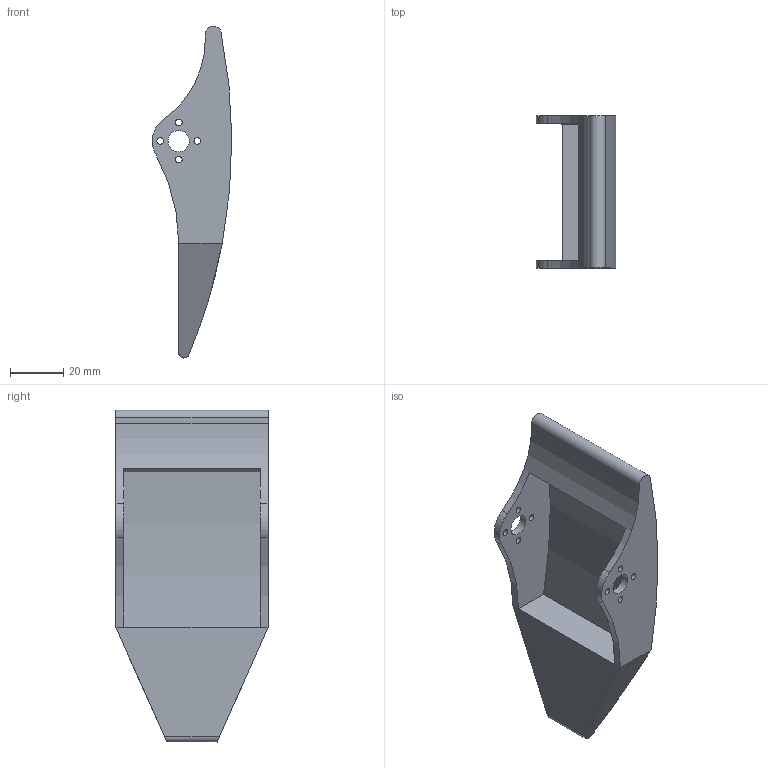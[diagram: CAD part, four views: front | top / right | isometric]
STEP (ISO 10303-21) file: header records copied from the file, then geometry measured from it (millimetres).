
FILE_DESCRIPTION(/* description */ (''),/* implementation_level */ '2;1');
FILE_NAME(/* name */ 'E:/云同步/我的坚果云/项目/SERVO DRIVER WITH ESP32/模型/C v3.step',/* time_stamp */ '2022-01-21T19:21:08+08:00',/* author */ (''),/* organization */ (''),/* preprocessor_version */ 'ST-DEVELOPER v18.1',/* originating_system */ 'Autodesk Translation Framework v10.10.0.1391',/* authorisation */ '');
FILE_SCHEMA (('AUTOMOTIVE_DESIGN { 1 0 10303 214 3 1 1 }'));
Length unit declared in the file: millimetre
Products named in the file (1): C
Bounding box: 29.99 x 57.4 x 125.2 mm (x, y, z)
Volume: 44336.9 mm3; surface area: 22615.4 mm2
Topology: 1 solids, 1 shells, 31 faces, 83 edges, 54 vertices
Faces by surface type: cylinder 20, plane 11
Full cylindrical faces by diameter (mm): 2.5 x8, 8 x2
Entity records: 1051 total; most frequent: DIRECTION 191, CARTESIAN_POINT 169, ORIENTED_EDGE 166, EDGE_CURVE 83, AXIS2_PLACEMENT_3D 76, VERTEX_POINT 54, EDGE_LOOP 51, CIRCLE 40
